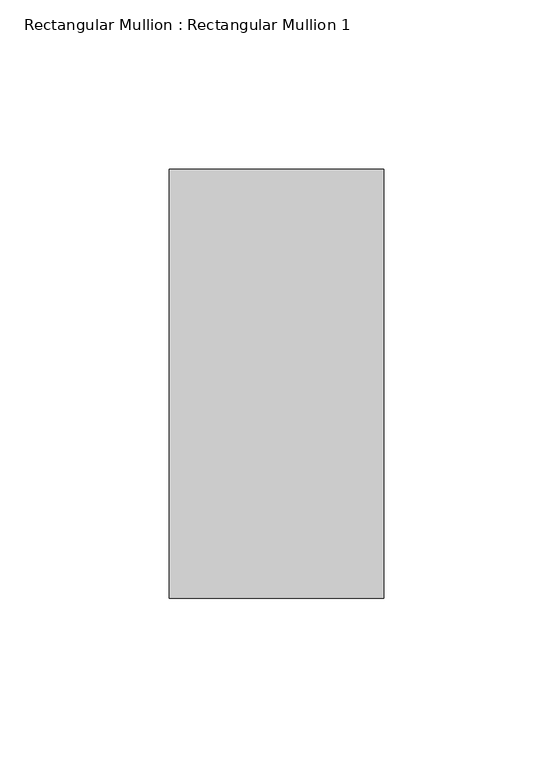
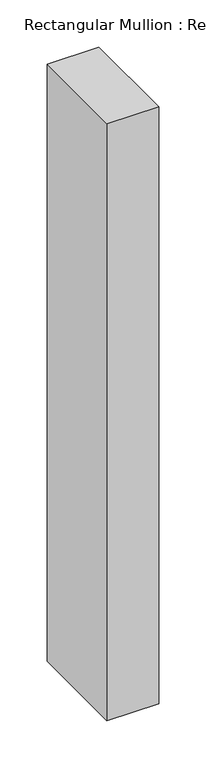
"""IFC4 building model written with IfcOpenShell, lengths in millimetres: member geometry, Rectangular Mullion : Rectangular Mullion 1."""

from ifc_helpers import new_model, si_unit, frame, origin, place, context, project, spatial, polyline, outline, extrude, source, transform, mapped, element, save


def rectangular_mullion_rectangular_mullion_1_da89ca8f(model_context):
    return source(origin(), model_context, "Body", "SweptSolid", [
        extrude(outline(polyline([(31.75, 63.5), (31.75, -63.5), (-31.75, -63.5), (-31.75, 63.5), (31.75, 63.5)])), frame((0.0, 0.0, -774.000161), z_axis=(0.0, 0.0, 1.0), x_axis=(1.0, 0.0, 0.0)), (0.0, 0.0, 1.0), 774.000161),
    ])


if __name__ == "__main__":
    model = new_model("IFC4")
    model_context = context("Model", 3, world=origin())
    ifc_project = project(units=[si_unit("LENGTHUNIT", "METRE", prefix="MILLI")], contexts=[model_context])
    site = spatial("IfcSite", under=ifc_project)
    building = spatial("IfcBuilding", under=site)
    placement = place(None, origin())
    rectangular_mullion_rectangular_mullion_1_shape = rectangular_mullion_rectangular_mullion_1_da89ca8f(model_context)
    element("IfcMember", 1, ObjectType="Rectangular Mullion : Rectangular Mullion 1", at=placement, inside=building, context=model_context, shape_type="MappedRepresentation", body=[
        mapped(rectangular_mullion_rectangular_mullion_1_shape, transform((0.0, 0.0, 0.0), x_axis=(1.0, 0.0, 0.0), y_axis=(0.0, 1.0, 0.0), z_axis=(0.0, 0.0, 1.0))),
    ])
    save(model, "model.ifc")
